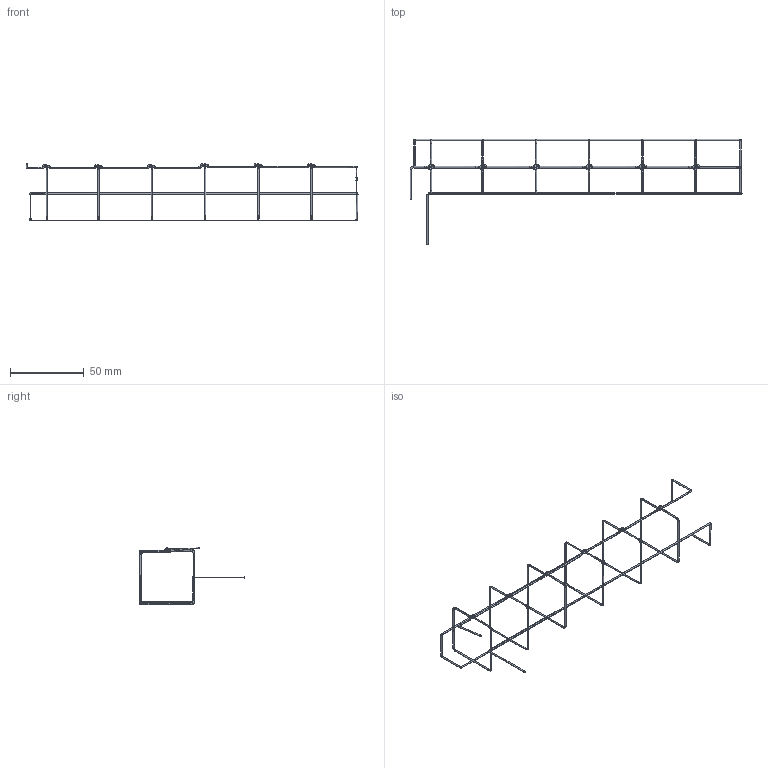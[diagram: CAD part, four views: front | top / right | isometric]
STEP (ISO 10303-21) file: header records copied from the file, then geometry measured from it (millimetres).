
FILE_DESCRIPTION (( 'STEP AP214' ), '1' );
FILE_NAME ('assieme spire celle.STEP', '2016-03-07T12:09:55', ( '' ), ( '' ), 'SwSTEP 2.0', 'SolidWorks 2012', '' );
FILE_SCHEMA (( 'AUTOMOTIVE_DESIGN' ));
Length unit declared in the file: millimetre
Products named in the file (6): raccordo lungo; G20 curva d1; assieme spire celle; raccordo lungo_2; spira_finale; spira
Assembly tree (9 placements, depth 2):
  assieme spire celle
    G20 curva d1
    spira  x5
    spira_finale
    raccordo lungo
    raccordo lungo_2
Bounding box: 224.46 x 71.41 x 39.18 mm (x, y, z)
Volume: 1500.8 mm3; surface area: 6048.8 mm2
Topology: 9 solids, 9 shells, 443 faces, 1084 edges, 660 vertices
Faces by surface type: cylinder 201, torus 161, plane 81
Entity records: 5901 total; most frequent: DIRECTION 1175, CARTESIAN_POINT 961, ORIENTED_EDGE 908, AXIS2_PLACEMENT_3D 526, EDGE_CURVE 454, CIRCLE 323, VERTEX_POINT 280, EDGE_LOOP 198
